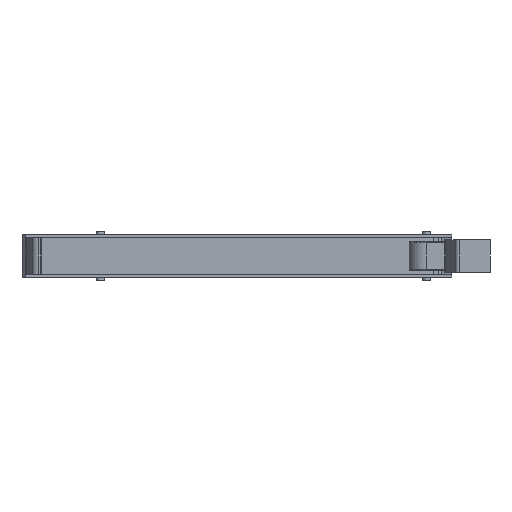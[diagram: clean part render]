
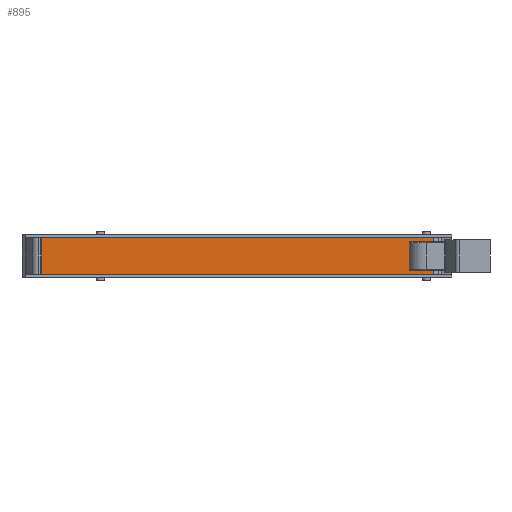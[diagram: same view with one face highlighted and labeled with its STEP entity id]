
A CAD part, front view. The second image highlights one B-rep face of the part: STEP entity #895.
In plain terms, the highlighted planar face has unit normal (0, -1, 0).
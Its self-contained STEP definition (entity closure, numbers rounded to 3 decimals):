
#94 = LINE ( 'NONE', #3651, #99 ) ;
#99 = VECTOR ( 'NONE', #999, 1000. ) ;
#174 = VERTEX_POINT ( 'NONE', #1689 ) ;
#180 = LINE ( 'NONE', #3051, #193 ) ;
#193 = VECTOR ( 'NONE', #2258, 1000. ) ;
#692 = ORIENTED_EDGE ( 'NONE', *, *, #1587, .T. ) ;
#701 = LINE ( 'NONE', #1728, #2821 ) ;
#846 = EDGE_CURVE ( 'NONE', #4708, #174, #1655, .T. ) ;
#895 = ADVANCED_FACE ( 'NONE', ( #1424 ), #3785, .T. ) ;
#999 = DIRECTION ( 'NONE',  ( 0., 0., 1. ) ) ;
#1074 = ORIENTED_EDGE ( 'NONE', *, *, #1282, .F. ) ;
#1191 = CARTESIAN_POINT ( 'NONE',  ( 117., -59.5, 23.3 ) ) ;
#1282 = EDGE_CURVE ( 'NONE', #4366, #3653, #701, .T. ) ;
#1424 = FACE_OUTER_BOUND ( 'NONE', #4519, .T. ) ;
#1546 = VECTOR ( 'NONE', #3485, 1000. ) ;
#1561 = EDGE_CURVE ( 'NONE', #174, #4366, #180, .T. ) ;
#1587 = EDGE_CURVE ( 'NONE', #4708, #3653, #94, .T. ) ;
#1622 = CARTESIAN_POINT ( 'NONE',  ( -113.5, -59.5, 23.3 ) ) ;
#1646 = ORIENTED_EDGE ( 'NONE', *, *, #1561, .F. ) ;
#1655 = LINE ( 'NONE', #3483, #1546 ) ;
#1689 = CARTESIAN_POINT ( 'NONE',  ( -113.5, -59.5, 1.7 ) ) ;
#1728 = CARTESIAN_POINT ( 'NONE',  ( -113.5, -59.5, 23.3 ) ) ;
#2258 = DIRECTION ( 'NONE',  ( 0., 0., 1. ) ) ;
#2550 = DIRECTION ( 'NONE',  ( 1., 0., 0. ) ) ;
#2821 = VECTOR ( 'NONE', #2550, 1000. ) ;
#3051 = CARTESIAN_POINT ( 'NONE',  ( -113.5, -59.5, -249.682 ) ) ;
#3483 = CARTESIAN_POINT ( 'NONE',  ( -113.5, -59.5, 1.7 ) ) ;
#3485 = DIRECTION ( 'NONE',  ( -1., 0., 0. ) ) ;
#3651 = CARTESIAN_POINT ( 'NONE',  ( 117., -59.5, -249.682 ) ) ;
#3653 = VERTEX_POINT ( 'NONE', #1191 ) ;
#3785 = PLANE ( 'NONE',  #4695 ) ;
#3807 = CARTESIAN_POINT ( 'NONE',  ( -113.5, -59.5, -249.682 ) ) ;
#3836 = DIRECTION ( 'NONE',  ( 0., -1., 0. ) ) ;
#3837 = DIRECTION ( 'NONE',  ( 0., 0., -1. ) ) ;
#4073 = ORIENTED_EDGE ( 'NONE', *, *, #846, .F. ) ;
#4366 = VERTEX_POINT ( 'NONE', #1622 ) ;
#4489 = CARTESIAN_POINT ( 'NONE',  ( 117., -59.5, 1.7 ) ) ;
#4519 = EDGE_LOOP ( 'NONE', ( #1646, #4073, #692, #1074 ) ) ;
#4695 = AXIS2_PLACEMENT_3D ( 'NONE', #3807, #3836, #3837 ) ;
#4708 = VERTEX_POINT ( 'NONE', #4489 ) ;
